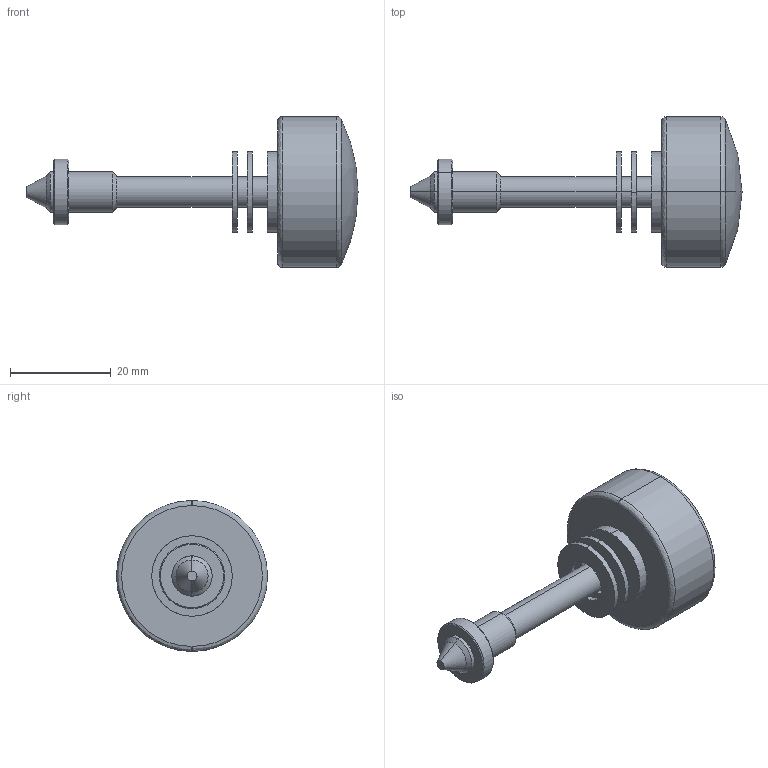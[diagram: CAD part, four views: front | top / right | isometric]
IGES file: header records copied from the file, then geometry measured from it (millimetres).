
Global section: file name: No Iges File Name specified; native system: AutoDesk Inventor R11.0; preprocessor: AutoDesk Inventor Iges Exporter R11.0; author: No Author specified; organization: No Organization specified; date: 20130722.145413; units: millimetre
Bounding box: 66 x 30 x 30 mm (x, y, z)
Surface area: 50675.7 mm2 (no closed solid volume)
Topology: 0 solids, 0 shells, 46 faces, 178 edges, 178 vertices
Faces by surface type: revolution 34, plane 10, bspline 2
